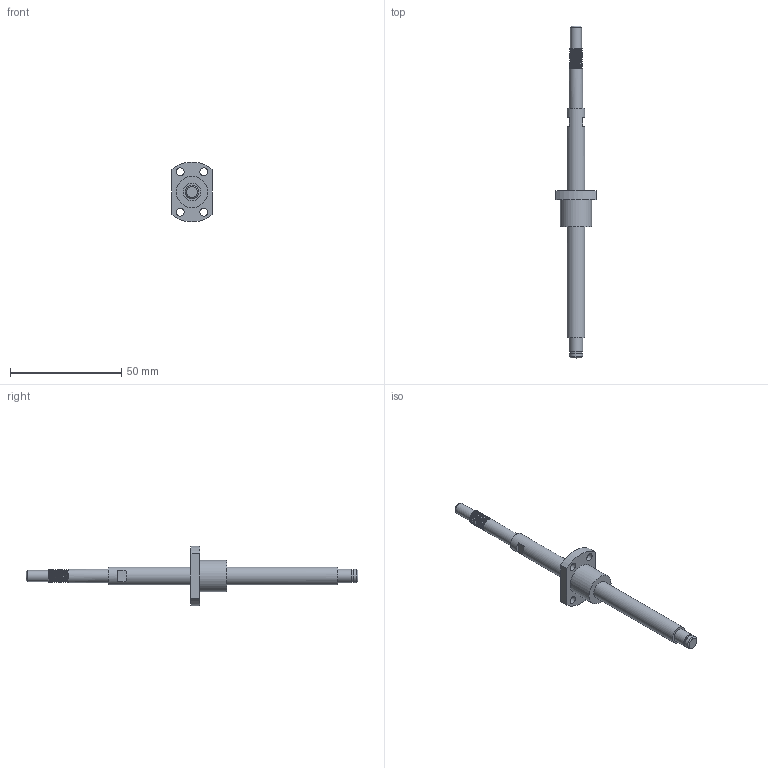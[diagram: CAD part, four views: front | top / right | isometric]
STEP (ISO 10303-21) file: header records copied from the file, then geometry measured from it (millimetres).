
FILE_DESCRIPTION(/* description */ (''),/* implementation_level */ '2;1');
FILE_NAME(/* name */ 'BSG022_asm1.stp',/* time_stamp */ '2017-01-06T13:21:43+08:00',/* author */ (''),/* organization */ (''),/* preprocessor_version */ 'ST-DEVELOPER v15',/* originating_system */ 'SIEMENS PLM Software NX 8.5',/* authorisation */ '');
FILE_SCHEMA (('AUTOMOTIVE_DESIGN { 1 0 10303 214 3 1 1 1 }'));
Length unit declared in the file: millimetre
Products named in the file (3): 01; BSG022; BSG022_asm1
Assembly tree (2 placements, depth 2):
  BSG022_asm1
    BSG022
    01
Bounding box: 18 x 149 x 26.91 mm (x, y, z)
Volume: 2677.5 mm3; surface area: 5746.5 mm2
Topology: 1 solids, 2 shells, 47 faces, 117 edges, 80 vertices
Faces by surface type: cylinder 23, plane 20, bspline 2, cone 2
Full cylindrical faces by diameter (mm): 3.5 x4, 5 x1, 5.7 x1, 6 x11, 8 x2, 14 x1
Entity records: 3579 total; most frequent: CARTESIAN_POINT 2718, DIRECTION 171, ORIENTED_EDGE 128, AXIS2_PLACEMENT_3D 76, EDGE_LOOP 71, EDGE_CURVE 64, FACE_BOUND 54, VERTEX_POINT 51
